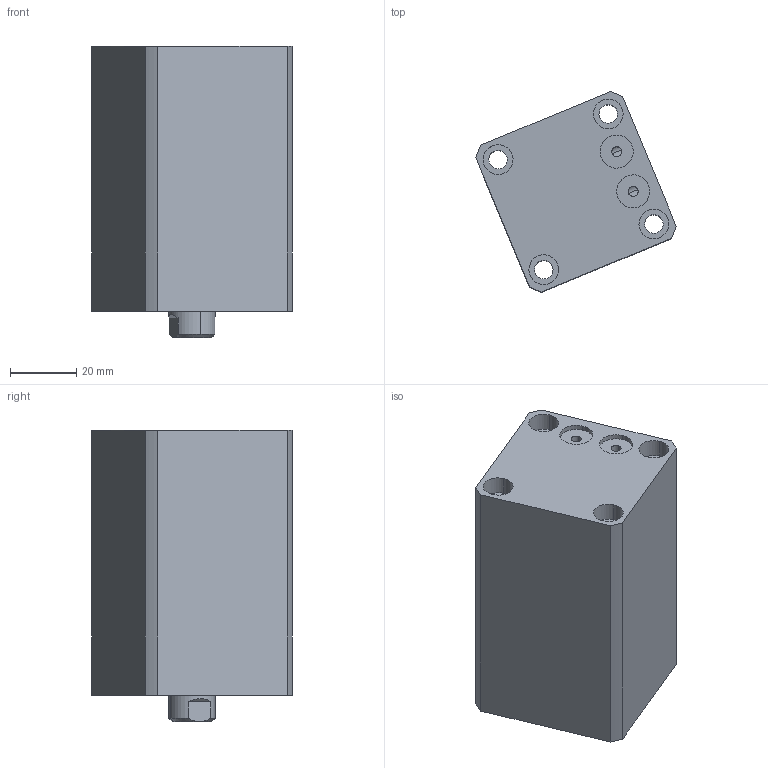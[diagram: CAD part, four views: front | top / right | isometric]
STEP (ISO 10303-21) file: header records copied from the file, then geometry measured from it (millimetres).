
FILE_DESCRIPTION (( 'STEP AP214' ), '1' );
FILE_NAME ('chtb-sdmb25x35n_asm.STEP', '2018-05-24T01:36:48', ( 'Windows' ), ( 'Microsoft' ), 'SwSTEP 2.0', 'SolidWorks 2015', '' );
FILE_SCHEMA (( 'AUTOMOTIVE_DESIGN' ));
Length unit declared in the file: millimetre
Products named in the file (4): chtb-sdmb25x35n_asm; CHTB-SDMB25X35NHSG; CHTB-SDMB25X35NBT; CHTB-25QG
Assembly tree (3 placements, depth 2):
  chtb-sdmb25x35n_asm
    CHTB-25QG
    CHTB-SDMB25X35NBT
    CHTB-SDMB25X35NHSG
Bounding box: 60.55 x 60.55 x 88 mm (x, y, z)
Volume: 159410.5 mm3; surface area: 43377.6 mm2
Topology: 3 solids, 3 shells, 142 faces, 379 edges, 257 vertices
Faces by surface type: cylinder 89, plane 34, bspline 10, cone 9
Entity records: 8024 total; most frequent: CARTESIAN_POINT 4397, ORIENTED_EDGE 746, DIRECTION 661, EDGE_CURVE 373, AXIS2_PLACEMENT_3D 272, VERTEX_POINT 257, EDGE_LOOP 180, ADVANCED_FACE 142
